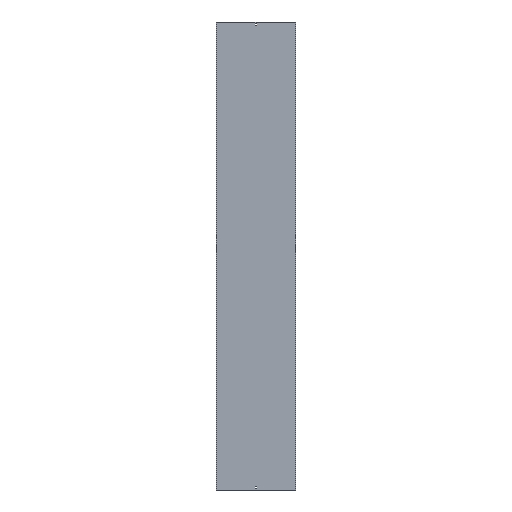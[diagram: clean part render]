
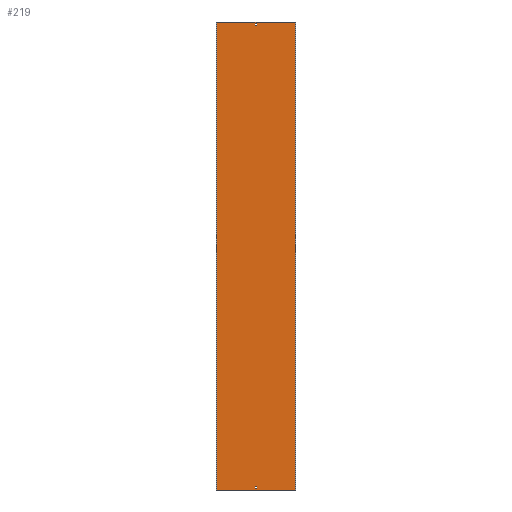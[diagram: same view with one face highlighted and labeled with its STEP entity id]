
A CAD part, front view. The second image highlights one B-rep face of the part: STEP entity #219.
In plain terms, the highlighted planar face has unit normal (0, -1, 0).
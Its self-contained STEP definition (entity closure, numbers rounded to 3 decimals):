
#5 = CARTESIAN_POINT ( 'NONE',  ( 252., -1.5, 1500. ) ) ;
#7 = DIRECTION ( 'NONE',  ( 0., 0., -1. ) ) ;
#8 = VERTEX_POINT ( 'NONE', #588 ) ;
#9 = EDGE_CURVE ( 'NONE', #110, #31, #365, .T. ) ;
#11 = DIRECTION ( 'NONE',  ( 0., 0., 1. ) ) ;
#14 = VECTOR ( 'NONE', #92, 1000. ) ;
#20 = CARTESIAN_POINT ( 'NONE',  ( 3.25, -1.5, -1488. ) ) ;
#21 = CARTESIAN_POINT ( 'NONE',  ( -253.5, -1.5, 1500. ) ) ;
#23 = ORIENTED_EDGE ( 'NONE', *, *, #310, .F. ) ;
#26 = CARTESIAN_POINT ( 'NONE',  ( 3.25, -1.5, -1479. ) ) ;
#29 = LINE ( 'NONE', #531, #181 ) ;
#31 = VERTEX_POINT ( 'NONE', #127 ) ;
#38 = EDGE_CURVE ( 'NONE', #131, #396, #458, .T. ) ;
#40 = DIRECTION ( 'NONE',  ( 0., 0., -1. ) ) ;
#45 = CARTESIAN_POINT ( 'NONE',  ( -3.25, -1.5, -1488. ) ) ;
#48 = ORIENTED_EDGE ( 'NONE', *, *, #230, .T. ) ;
#52 = VECTOR ( 'NONE', #469, 1000. ) ;
#53 = DIRECTION ( 'NONE',  ( 0., 0., 1. ) ) ;
#74 = ORIENTED_EDGE ( 'NONE', *, *, #38, .F. ) ;
#75 = VECTOR ( 'NONE', #475, 1000. ) ;
#92 = DIRECTION ( 'NONE',  ( 1., 0., 0. ) ) ;
#94 = EDGE_CURVE ( 'NONE', #364, #8, #419, .T. ) ;
#96 = EDGE_LOOP ( 'NONE', ( #196, #120, #539, #285 ) ) ;
#98 = CARTESIAN_POINT ( 'NONE',  ( -252., -1.5, 1500. ) ) ;
#102 = DIRECTION ( 'NONE',  ( 1., 0., 0. ) ) ;
#105 = VECTOR ( 'NONE', #548, 1000. ) ;
#107 = VECTOR ( 'NONE', #144, 1000. ) ;
#110 = VERTEX_POINT ( 'NONE', #500 ) ;
#114 = LINE ( 'NONE', #290, #75 ) ;
#120 = ORIENTED_EDGE ( 'NONE', *, *, #9, .F. ) ;
#121 = EDGE_LOOP ( 'NONE', ( #48, #371, #551, #477 ) ) ;
#127 = CARTESIAN_POINT ( 'NONE',  ( 252., -1.5, -1500. ) ) ;
#130 = EDGE_CURVE ( 'NONE', #185, #498, #234, .T. ) ;
#131 = VERTEX_POINT ( 'NONE', #146 ) ;
#136 = LINE ( 'NONE', #231, #459 ) ;
#142 = LINE ( 'NONE', #557, #107 ) ;
#144 = DIRECTION ( 'NONE',  ( -1., 0., 0. ) ) ;
#146 = CARTESIAN_POINT ( 'NONE',  ( -3.25, -1.5, 1479. ) ) ;
#152 = EDGE_CURVE ( 'NONE', #31, #498, #142, .T. ) ;
#162 = CARTESIAN_POINT ( 'NONE',  ( -3.25, -1.5, 1488. ) ) ;
#163 = FACE_OUTER_BOUND ( 'NONE', #96, .T. ) ;
#181 = VECTOR ( 'NONE', #569, 1000. ) ;
#185 = VERTEX_POINT ( 'NONE', #335 ) ;
#196 = ORIENTED_EDGE ( 'NONE', *, *, #152, .F. ) ;
#199 = ORIENTED_EDGE ( 'NONE', *, *, #203, .F. ) ;
#203 = EDGE_CURVE ( 'NONE', #233, #578, #480, .T. ) ;
#213 = FACE_BOUND ( 'NONE', #447, .T. ) ;
#219 = ADVANCED_FACE ( 'NONE', ( #213, #163, #518 ), #426, .T. ) ;
#221 = VERTEX_POINT ( 'NONE', #26 ) ;
#225 = ORIENTED_EDGE ( 'NONE', *, *, #444, .F. ) ;
#230 = EDGE_CURVE ( 'NONE', #526, #364, #29, .T. ) ;
#231 = CARTESIAN_POINT ( 'NONE',  ( -3.25, -1.5, 1500. ) ) ;
#233 = VERTEX_POINT ( 'NONE', #380 ) ;
#234 = LINE ( 'NONE', #98, #105 ) ;
#236 = CARTESIAN_POINT ( 'NONE',  ( 3.25, -1.5, 1479. ) ) ;
#245 = LINE ( 'NONE', #21, #52 ) ;
#249 = DIRECTION ( 'NONE',  ( 0., 0., -1. ) ) ;
#258 = DIRECTION ( 'NONE',  ( -1., 0., 0. ) ) ;
#270 = LINE ( 'NONE', #414, #366 ) ;
#285 = ORIENTED_EDGE ( 'NONE', *, *, #130, .T. ) ;
#287 = CARTESIAN_POINT ( 'NONE',  ( -253.5, -1.5, 1488. ) ) ;
#290 = CARTESIAN_POINT ( 'NONE',  ( 3.25, -1.5, 1500. ) ) ;
#308 = VECTOR ( 'NONE', #40, 1000. ) ;
#310 = EDGE_CURVE ( 'NONE', #578, #131, #136, .T. ) ;
#313 = AXIS2_PLACEMENT_3D ( 'NONE', #348, #472, #249 ) ;
#319 = VECTOR ( 'NONE', #53, 1000. ) ;
#322 = LINE ( 'NONE', #534, #14 ) ;
#334 = EDGE_CURVE ( 'NONE', #110, #185, #245, .T. ) ;
#335 = CARTESIAN_POINT ( 'NONE',  ( -252., -1.5, 1500. ) ) ;
#348 = CARTESIAN_POINT ( 'NONE',  ( -253.5, -1.5, 1500. ) ) ;
#360 = EDGE_CURVE ( 'NONE', #221, #526, #114, .T. ) ;
#364 = VERTEX_POINT ( 'NONE', #45 ) ;
#365 = LINE ( 'NONE', #5, #308 ) ;
#366 = VECTOR ( 'NONE', #11, 1000. ) ;
#371 = ORIENTED_EDGE ( 'NONE', *, *, #94, .T. ) ;
#376 = CARTESIAN_POINT ( 'NONE',  ( -3.25, -1.5, 1500. ) ) ;
#380 = CARTESIAN_POINT ( 'NONE',  ( 3.25, -1.5, 1488. ) ) ;
#396 = VERTEX_POINT ( 'NONE', #236 ) ;
#400 = EDGE_CURVE ( 'NONE', #8, #221, #322, .T. ) ;
#413 = CARTESIAN_POINT ( 'NONE',  ( -253.5, -1.5, 1479. ) ) ;
#414 = CARTESIAN_POINT ( 'NONE',  ( 3.25, -1.5, 1500. ) ) ;
#417 = CARTESIAN_POINT ( 'NONE',  ( -252., -1.5, -1500. ) ) ;
#419 = LINE ( 'NONE', #376, #319 ) ;
#426 = PLANE ( 'NONE',  #313 ) ;
#444 = EDGE_CURVE ( 'NONE', #396, #233, #270, .T. ) ;
#447 = EDGE_LOOP ( 'NONE', ( #23, #199, #225, #74 ) ) ;
#458 = LINE ( 'NONE', #413, #581 ) ;
#459 = VECTOR ( 'NONE', #7, 1000. ) ;
#469 = DIRECTION ( 'NONE',  ( -1., 0., 0. ) ) ;
#472 = DIRECTION ( 'NONE',  ( 0., -1., 0. ) ) ;
#475 = DIRECTION ( 'NONE',  ( 0., 0., -1. ) ) ;
#477 = ORIENTED_EDGE ( 'NONE', *, *, #360, .T. ) ;
#480 = LINE ( 'NONE', #287, #573 ) ;
#498 = VERTEX_POINT ( 'NONE', #417 ) ;
#500 = CARTESIAN_POINT ( 'NONE',  ( 252., -1.5, 1500. ) ) ;
#518 = FACE_BOUND ( 'NONE', #121, .T. ) ;
#526 = VERTEX_POINT ( 'NONE', #20 ) ;
#531 = CARTESIAN_POINT ( 'NONE',  ( -253.5, -1.5, -1488. ) ) ;
#534 = CARTESIAN_POINT ( 'NONE',  ( -253.5, -1.5, -1479. ) ) ;
#539 = ORIENTED_EDGE ( 'NONE', *, *, #334, .T. ) ;
#548 = DIRECTION ( 'NONE',  ( 0., 0., -1. ) ) ;
#551 = ORIENTED_EDGE ( 'NONE', *, *, #400, .T. ) ;
#557 = CARTESIAN_POINT ( 'NONE',  ( -253.5, -1.5, -1500. ) ) ;
#569 = DIRECTION ( 'NONE',  ( -1., 0., 0. ) ) ;
#573 = VECTOR ( 'NONE', #258, 1000. ) ;
#578 = VERTEX_POINT ( 'NONE', #162 ) ;
#581 = VECTOR ( 'NONE', #102, 1000. ) ;
#588 = CARTESIAN_POINT ( 'NONE',  ( -3.25, -1.5, -1479. ) ) ;
